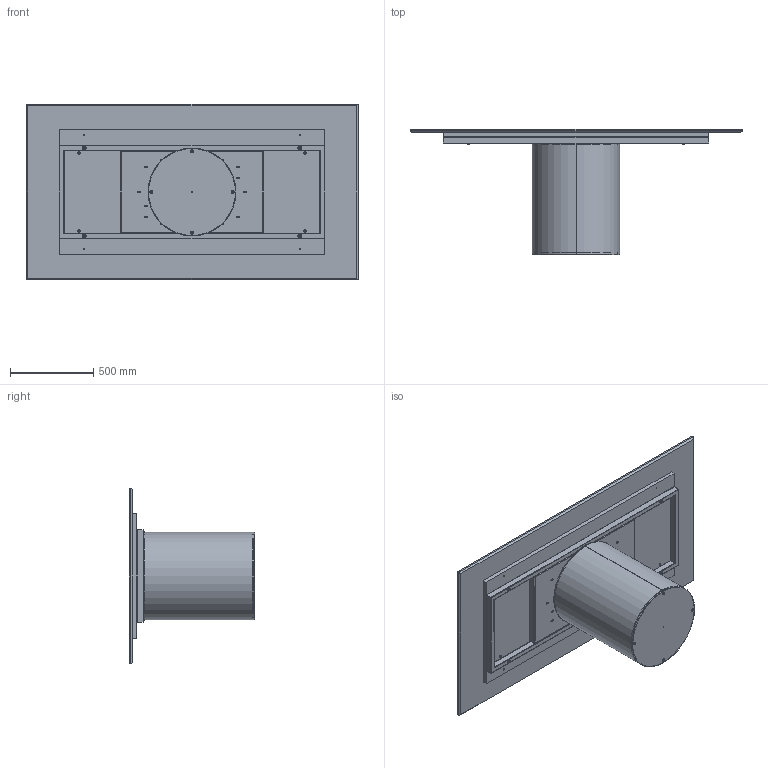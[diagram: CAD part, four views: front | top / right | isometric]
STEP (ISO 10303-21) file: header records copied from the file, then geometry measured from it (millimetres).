
FILE_DESCRIPTION (( 'STEP AP203' ), '1' );
FILE_NAME ('CI21M.STEP', '2024-08-08T07:22:17', ( '' ), ( '' ), 'SwSTEP 2.0', 'SolidWorks 2022', '' );
FILE_SCHEMA (( 'CONFIG_CONTROL_DESIGN' ));
Length unit declared in the file: millimetre
Products named in the file (14): M8xXXmm_hex_M8X20mm; CI21M; M2X-00-Piani rettangolari marmo_2000*1060; COLLO TELAIO UNIVERSALE TTAV01 CON FERRAMENTA_MTG TOP LEGNO-MARMO-KING; rondella M8_8X24; TTAV01-05-TELAIO UNIVERSALE X TAVOLI 180 240cm; TTAV01_02-05-VASSOIO IRRIGIDIMENTO TELAIO UNIVERSALE; TTAV01_01-05-TELAIO UNIVERSALE X TAVOLI 180 240cm; TRUXXXXXX-00-NOBILITATO GR CON SUPP TRUCIOLARE SP. 25_TRU00004_1600x720; M8xXXmm_M8x55mm; M2XMXX-00-Piani rettangolari in marmo_2000x1060; C2B000000-03-CILINDRO BASE D.530mm_Normale; C2B000000_02-01-ZAVORRA IN FERRO D.530mm; C2B000000_01-00-struttura cilindro D.530mm
Assembly tree (22 placements, depth 4):
  CI21M
    C2B000000-03-CILINDRO BASE D.530mm_Normale
      C2B000000_01-00-struttura cilindro D.530mm
      C2B000000_02-01-ZAVORRA IN FERRO D.530mm
      M8xXXmm_hex_M8X20mm  x4
    COLLO TELAIO UNIVERSALE TTAV01 CON FERRAMENTA_MTG TOP LEGNO-MARMO-KING
      TTAV01-05-TELAIO UNIVERSALE X TAVOLI 180 240cm
        TTAV01_02-05-VASSOIO IRRIGIDIMENTO TELAIO UNIVERSALE
        TTAV01_01-05-TELAIO UNIVERSALE X TAVOLI 180 240cm
      rondella M8_8X24  x4
      M8xXXmm_M8x55mm  x4
    M2XMXX-00-Piani rettangolari in marmo_2000x1060
      M2X-00-Piani rettangolari marmo_2000*1060
      TRUXXXXXX-00-NOBILITATO GR CON SUPP TRUCIOLARE SP. 25_TRU00004_1600x720
Bounding box: 2000 x 755 x 1060 mm (x, y, z)
Volume: 80740847.2 mm3; surface area: 11957102.4 mm2
Topology: 21 solids, 21 shells, 786 faces, 1858 edges, 1077 vertices
Faces by surface type: plane 306, cylinder 280, cone 122, torus 56, sphere 22
Entity records: 17725 total; most frequent: DIRECTION 2937, CARTESIAN_POINT 2783, ORIENTED_EDGE 2592, EDGE_CURVE 1296, AXIS2_PLACEMENT_3D 1104, VERTEX_POINT 800, LINE 729, VECTOR 729
